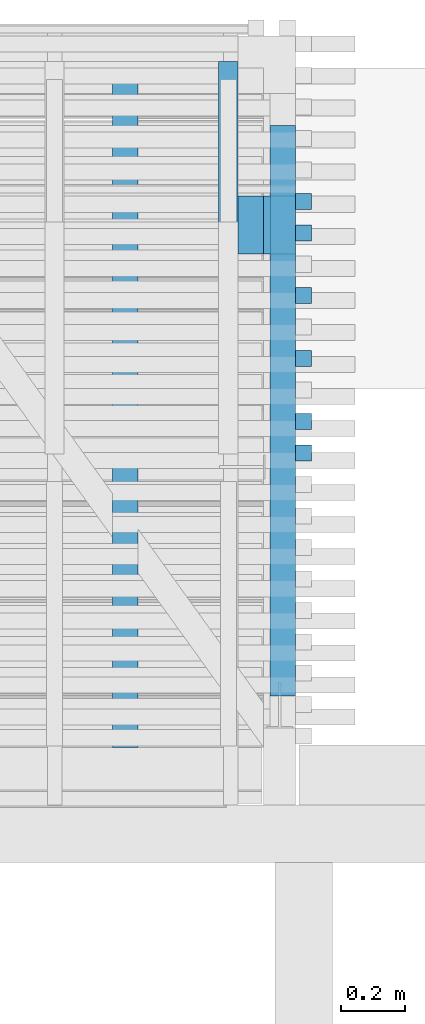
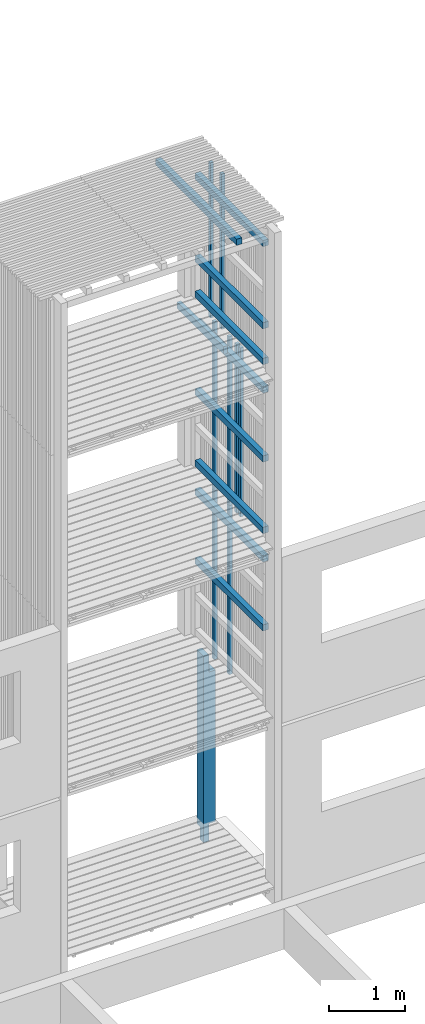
# One storey, part 29 of 182: 19 beams.
"""IFC2X3 building model written with IfcOpenShell, lengths in metres."""

from ifc_helpers import new_model, si_unit, frame, origin, place, context, project, spatial, faceted_brep, element, save


model = new_model("IFC2X3")

# Units and contexts
model_context = context("Model", 3, precision=1e-06, world=origin())
ifc_project = project(units=[si_unit("LENGTHUNIT", "METRE"), si_unit("PLANEANGLEUNIT", "RADIAN")], contexts=[model_context])

# Site, building, storey
site = spatial("IfcSite", under=ifc_project, CompositionType="ELEMENT")
building = spatial("IfcBuilding", under=site, CompositionType="ELEMENT")
storey = spatial("IfcBuildingStorey", under=building, Name="vs", CompositionType="ELEMENT", Elevation=-0.85)

# Beams
placement = place(None, origin())
beam_1_placement = place(placement, frame((6.604197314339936, 10.810077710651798, 5.074999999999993), z_axis=(0.0, 0.0, 1.0), x_axis=(0.0, 1.0, 0.0)))
element("IfcBeam", 1, at=beam_1_placement, inside=storey, Name="Support bardage", context=model_context, shape_type="Brep", body=[
    faceted_brep([(1.779999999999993, -0.039999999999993, 0.050000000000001), (1.779999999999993, -0.039999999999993, -0.050000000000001), (1.779999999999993, 0.04000000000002, -0.050000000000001), (1.779999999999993, 0.04000000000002, 0.050000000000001), (-4e-15, -0.039999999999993, -0.050000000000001), (1.779999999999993, -0.039999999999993, -0.050000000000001), (1.779999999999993, -0.039999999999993, 0.050000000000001), (-4e-15, -0.039999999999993, 0.050000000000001), (-4e-15, 0.04000000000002, -0.050000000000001), (1.779999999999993, 0.04000000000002, -0.050000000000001), (1.779999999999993, -0.039999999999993, -0.050000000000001), (-4e-15, -0.039999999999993, -0.050000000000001), (-4e-15, 0.04000000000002, 0.050000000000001), (1.779999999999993, 0.04000000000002, 0.050000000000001), (1.779999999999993, 0.04000000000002, -0.050000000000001), (-4e-15, 0.04000000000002, -0.050000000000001), (-4e-15, -0.039999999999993, 0.050000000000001), (1.779999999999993, -0.039999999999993, 0.050000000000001), (1.779999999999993, 0.04000000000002, 0.050000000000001), (-4e-15, 0.04000000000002, 0.050000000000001), (-4e-15, -0.039999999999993, -0.050000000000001), (-4e-15, -0.039999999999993, 0.050000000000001), (-4e-15, 0.04000000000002, 0.050000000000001), (-4e-15, 0.04000000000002, -0.050000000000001)], [[[0, 1, 2, 3]], [[4, 5, 6, 7]], [[8, 9, 10, 11]], [[12, 13, 14, 15]], [[16, 17, 18, 19]], [[20, 21, 22, 23]]]),
])
beam_2_placement = place(placement, frame((6.66919731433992, 12.255986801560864, 2.575000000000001), z_axis=(-1.0, 0.0, 0.0), x_axis=(0.0, 0.0, 1.0)))
element("IfcBeam", 2, at=beam_2_placement, inside=storey, Name="Bardage", context=model_context, shape_type="Brep", body=[
    faceted_brep([(0.0, -0.025000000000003, 0.024999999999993), (0.0, 0.025000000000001, 0.024999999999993), (0.0, 0.025000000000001, -0.025000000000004), (0.0, -0.025000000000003, -0.025000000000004), (2.699961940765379, 0.025000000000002, -0.025000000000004), (2.699961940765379, 0.025000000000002, 0.024999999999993), (2.699961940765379, -0.024999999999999, 0.024999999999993), (2.699961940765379, -0.024999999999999, -0.025000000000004), (0.0, -0.025000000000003, -0.025000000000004), (0.0, 0.025000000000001, -0.025000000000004), (2.699961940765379, 0.025000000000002, -0.025000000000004), (2.699961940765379, -0.024999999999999, -0.025000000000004), (2.699961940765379, 0.025000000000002, -0.025000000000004), (0.0, 0.025000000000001, -0.025000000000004), (0.0, 0.025000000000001, 0.024999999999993), (2.699961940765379, 0.025000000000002, 0.024999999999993), (2.699961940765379, 0.025000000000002, 0.024999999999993), (0.0, 0.025000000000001, 0.024999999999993), (0.0, -0.025000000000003, 0.024999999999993), (2.699961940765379, -0.024999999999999, 0.024999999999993), (2.699961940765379, -0.024999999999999, 0.024999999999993), (0.0, -0.025000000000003, 0.024999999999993), (0.0, -0.025000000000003, -0.025000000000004), (2.699961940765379, -0.024999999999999, -0.025000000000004)], [[[0, 1, 2, 3]], [[4, 5, 6, 7]], [[8, 9, 10, 11]], [[12, 13, 14, 15]], [[16, 17, 18, 19]], [[20, 21, 22, 23]]]),
])
beam_3_placement = place(placement, frame((6.66919731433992, 11.568714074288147, 5.274999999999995), z_axis=(-1.0, 0.0, 0.0), x_axis=(0.0, 0.0, 1.0)))
element("IfcBeam", 3, at=beam_3_placement, inside=storey, Name="Bardage", context=model_context, shape_type="Brep", body=[
    faceted_brep([(1e-15, -0.024999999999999, 0.024999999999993), (1e-15, 0.024999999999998, 0.024999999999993), (1e-15, 0.024999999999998, -0.025000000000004), (1e-15, -0.024999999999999, -0.025000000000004), (2.699999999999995, -0.024999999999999, -0.025000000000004), (2.699999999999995, 0.024999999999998, -0.025000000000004), (2.699999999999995, 0.024999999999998, 0.024999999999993), (2.699999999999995, -0.024999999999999, 0.024999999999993), (1e-15, -0.024999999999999, 0.024999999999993), (1e-15, -0.024999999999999, -0.025000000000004), (2.699999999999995, -0.024999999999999, -0.025000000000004), (2.699999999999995, -0.024999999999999, 0.024999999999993), (2.699999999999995, -0.024999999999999, -0.025000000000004), (1e-15, -0.024999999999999, -0.025000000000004), (1e-15, 0.024999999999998, -0.025000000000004), (2.699999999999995, 0.024999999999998, -0.025000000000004), (2.699999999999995, 0.024999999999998, -0.025000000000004), (1e-15, 0.024999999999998, -0.025000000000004), (1e-15, 0.024999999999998, 0.024999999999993), (2.699999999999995, 0.024999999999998, 0.024999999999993), (2.699999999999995, 0.024999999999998, 0.024999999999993), (1e-15, 0.024999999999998, 0.024999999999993), (1e-15, -0.024999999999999, 0.024999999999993), (2.699999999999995, -0.024999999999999, 0.024999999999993)], [[[0, 1, 2, 3]], [[4, 5, 6, 7]], [[8, 9, 10, 11]], [[12, 13, 14, 15]], [[16, 17, 18, 19]], [[20, 21, 22, 23]]]),
])
beam_4_placement = place(placement, frame((6.66919731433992, 12.255986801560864, 5.274999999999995), z_axis=(-1.0, 0.0, 0.0), x_axis=(0.0, 0.0, 1.0)))
element("IfcBeam", 4, at=beam_4_placement, inside=storey, Name="Bardage", context=model_context, shape_type="Brep", body=[
    faceted_brep([(1e-15, -0.025000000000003, 0.024999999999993), (1e-15, 0.025000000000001, 0.024999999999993), (1e-15, 0.025000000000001, -0.025000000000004), (1e-15, -0.025000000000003, -0.025000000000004), (2.699999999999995, -0.025000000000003, -0.025000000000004), (2.699999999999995, 0.025000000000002, -0.025000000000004), (2.699999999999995, 0.025000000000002, 0.024999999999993), (2.699999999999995, -0.025000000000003, 0.024999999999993), (1e-15, -0.025000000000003, 0.024999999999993), (1e-15, -0.025000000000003, -0.025000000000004), (2.699999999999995, -0.025000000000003, -0.025000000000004), (2.699999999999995, -0.025000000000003, 0.024999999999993), (2.699999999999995, -0.025000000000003, -0.025000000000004), (1e-15, -0.025000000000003, -0.025000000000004), (1e-15, 0.025000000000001, -0.025000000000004), (2.699999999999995, 0.025000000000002, -0.025000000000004), (2.699999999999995, 0.025000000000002, -0.025000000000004), (1e-15, 0.025000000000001, -0.025000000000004), (1e-15, 0.025000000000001, 0.024999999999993), (2.699999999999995, 0.025000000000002, 0.024999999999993), (2.699999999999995, 0.025000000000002, 0.024999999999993), (1e-15, 0.025000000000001, 0.024999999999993), (1e-15, -0.025000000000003, 0.024999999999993), (2.699999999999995, -0.025000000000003, 0.024999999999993)], [[[0, 1, 2, 3]], [[4, 5, 6, 7]], [[8, 9, 10, 11]], [[12, 13, 14, 15]], [[16, 17, 18, 19]], [[20, 21, 22, 23]]]),
])
beam_5_placement = place(placement, frame((6.112530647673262, 10.650077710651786, 10.404999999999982), z_axis=(0.0, 0.0, 1.0), x_axis=(0.0, 1.0, 0.0)))
element("IfcBeam", 5, at=beam_5_placement, inside=storey, Name="Support bardage", context=model_context, shape_type="Brep", body=[
    faceted_brep([(2.120000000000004, -0.040000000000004, 0.050000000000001), (2.120000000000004, 0.039999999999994, 0.050000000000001), (3e-15, 0.039999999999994, 0.050000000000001), (3e-15, -0.040000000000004, 0.050000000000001), (3e-15, 0.039999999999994, 0.050000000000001), (2.120000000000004, 0.039999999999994, 0.050000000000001), (2.120000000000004, 0.039999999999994, -0.050000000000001), (3e-15, 0.039999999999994, -0.050000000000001), (2.120000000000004, 0.039999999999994, 0.050000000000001), (2.120000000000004, -0.040000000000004, 0.050000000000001), (2.120000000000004, -0.040000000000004, -0.050000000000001), (2.120000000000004, 0.039999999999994, -0.050000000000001), (2.120000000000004, -0.040000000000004, -0.050000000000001), (2.120000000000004, -0.040000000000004, 0.050000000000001), (3e-15, -0.040000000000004, 0.050000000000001), (3e-15, -0.040000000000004, -0.050000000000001), (3e-15, 0.039999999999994, -0.050000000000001), (2.120000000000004, 0.039999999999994, -0.050000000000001), (2.120000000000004, -0.040000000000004, -0.050000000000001), (3e-15, -0.040000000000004, -0.050000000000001), (3e-15, 0.039999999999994, 0.050000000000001), (3e-15, 0.039999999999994, -0.050000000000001), (3e-15, -0.040000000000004, -0.050000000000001), (3e-15, -0.040000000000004, 0.050000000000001)], [[[0, 1, 2, 3]], [[4, 5, 6, 7]], [[8, 9, 10, 11]], [[12, 13, 14, 15]], [[16, 17, 18, 19]], [[20, 21, 22, 23]]]),
])
beam_6_placement = place(placement, frame((6.66919731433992, 11.666895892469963, 5.274999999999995), z_axis=(-1.0, 0.0, 0.0), x_axis=(0.0, 0.0, 1.0)))
element("IfcBeam", 6, at=beam_6_placement, inside=storey, Name="Bardage", context=model_context, shape_type="Brep", body=[
    faceted_brep([(1e-15, -0.025000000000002, 0.024999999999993), (1e-15, 0.024999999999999, 0.024999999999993), (1e-15, 0.024999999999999, -0.025000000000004), (1e-15, -0.025000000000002, -0.025000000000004), (2.699999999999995, -0.025000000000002, -0.025000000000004), (2.699999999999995, 0.024999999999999, -0.025000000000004), (2.699999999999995, 0.024999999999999, 0.024999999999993), (2.699999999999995, -0.025000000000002, 0.024999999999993), (1e-15, -0.025000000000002, 0.024999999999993), (1e-15, -0.025000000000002, -0.025000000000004), (2.699999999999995, -0.025000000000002, -0.025000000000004), (2.699999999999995, -0.025000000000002, 0.024999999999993), (2.699999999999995, -0.025000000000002, -0.025000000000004), (1e-15, -0.025000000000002, -0.025000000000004), (1e-15, 0.024999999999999, -0.025000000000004), (2.699999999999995, 0.024999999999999, -0.025000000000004), (2.699999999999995, 0.024999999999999, -0.025000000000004), (1e-15, 0.024999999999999, -0.025000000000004), (1e-15, 0.024999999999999, 0.024999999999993), (2.699999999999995, 0.024999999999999, 0.024999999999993), (2.699999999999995, 0.024999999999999, 0.024999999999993), (1e-15, 0.024999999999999, 0.024999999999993), (1e-15, -0.025000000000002, 0.024999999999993), (2.699999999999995, -0.025000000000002, 0.024999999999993)], [[[0, 1, 2, 3]], [[4, 5, 6, 7]], [[8, 9, 10, 11]], [[12, 13, 14, 15]], [[16, 17, 18, 19]], [[20, 21, 22, 23]]]),
])
beam_7_placement = place(placement, frame((6.66919731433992, 11.863259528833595, 5.274999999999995), z_axis=(-1.0, 0.0, 0.0), x_axis=(0.0, 0.0, 1.0)))
element("IfcBeam", 7, at=beam_7_placement, inside=storey, Name="Bardage", context=model_context, shape_type="Brep", body=[
    faceted_brep([(1e-15, -0.024999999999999, 0.024999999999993), (1e-15, 0.024999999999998, 0.024999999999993), (1e-15, 0.024999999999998, -0.025000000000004), (1e-15, -0.024999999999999, -0.025000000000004), (2.699999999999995, -0.024999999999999, -0.025000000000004), (2.699999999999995, 0.024999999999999, -0.025000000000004), (2.699999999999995, 0.024999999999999, 0.024999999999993), (2.699999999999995, -0.024999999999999, 0.024999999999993), (1e-15, -0.024999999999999, 0.024999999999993), (1e-15, -0.024999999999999, -0.025000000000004), (2.699999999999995, -0.024999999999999, -0.025000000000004), (2.699999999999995, -0.024999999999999, 0.024999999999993), (2.699999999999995, -0.024999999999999, -0.025000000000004), (1e-15, -0.024999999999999, -0.025000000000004), (1e-15, 0.024999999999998, -0.025000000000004), (2.699999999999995, 0.024999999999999, -0.025000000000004), (2.699999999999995, 0.024999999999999, -0.025000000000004), (1e-15, 0.024999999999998, -0.025000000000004), (1e-15, 0.024999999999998, 0.024999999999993), (2.699999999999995, 0.024999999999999, 0.024999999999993), (2.699999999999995, 0.024999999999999, 0.024999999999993), (1e-15, 0.024999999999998, 0.024999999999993), (1e-15, -0.024999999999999, 0.024999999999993), (2.699999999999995, -0.024999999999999, 0.024999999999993)], [[[0, 1, 2, 3]], [[4, 5, 6, 7]], [[8, 9, 10, 11]], [[12, 13, 14, 15]], [[16, 17, 18, 19]], [[20, 21, 22, 23]]]),
])
beam_8_placement = place(placement, frame((6.604197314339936, 10.810077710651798, 6.672499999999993), z_axis=(0.0, 0.0, 1.0), x_axis=(0.0, 1.0, 0.0)))
element("IfcBeam", 8, at=beam_8_placement, inside=storey, Name="Support bardage", context=model_context, shape_type="Brep", body=[
    faceted_brep([(1.779999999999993, -0.039999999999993, 0.050000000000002), (1.779999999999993, -0.039999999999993, -0.05), (1.779999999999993, 0.04000000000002, -0.05), (1.779999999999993, 0.04000000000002, 0.050000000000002), (-4e-15, -0.039999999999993, -0.05), (1.779999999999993, -0.039999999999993, -0.05), (1.779999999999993, -0.039999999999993, 0.050000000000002), (-4e-15, -0.039999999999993, 0.050000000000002), (-4e-15, 0.04000000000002, -0.05), (1.779999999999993, 0.04000000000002, -0.05), (1.779999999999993, -0.039999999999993, -0.05), (-4e-15, -0.039999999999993, -0.05), (-4e-15, 0.04000000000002, 0.050000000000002), (1.779999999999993, 0.04000000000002, 0.050000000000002), (1.779999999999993, 0.04000000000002, -0.05), (-4e-15, 0.04000000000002, -0.05), (-4e-15, -0.039999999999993, 0.050000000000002), (1.779999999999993, -0.039999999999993, 0.050000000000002), (1.779999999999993, 0.04000000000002, 0.050000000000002), (-4e-15, 0.04000000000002, 0.050000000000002), (-4e-15, -0.039999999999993, -0.05), (-4e-15, -0.039999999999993, 0.050000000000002), (-4e-15, 0.04000000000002, 0.050000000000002), (-4e-15, 0.04000000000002, -0.05)], [[[0, 1, 2, 3]], [[4, 5, 6, 7]], [[8, 9, 10, 11]], [[12, 13, 14, 15]], [[16, 17, 18, 19]], [[20, 21, 22, 23]]]),
])
beam_9_placement = place(placement, frame((6.604197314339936, 10.810077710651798, 7.774999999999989), z_axis=(0.0, 0.0, 1.0), x_axis=(0.0, 1.0, 0.0)))
element("IfcBeam", 9, at=beam_9_placement, inside=storey, Name="Support bardage", context=model_context, shape_type="Brep", body=[
    faceted_brep([(1.779999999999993, -0.039999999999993, 0.050000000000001), (1.779999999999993, -0.039999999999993, -0.050000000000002), (1.779999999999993, 0.04000000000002, -0.050000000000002), (1.779999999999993, 0.04000000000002, 0.050000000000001), (-4e-15, -0.039999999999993, -0.050000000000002), (1.779999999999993, -0.039999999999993, -0.050000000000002), (1.779999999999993, -0.039999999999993, 0.050000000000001), (-4e-15, -0.039999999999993, 0.050000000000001), (-4e-15, 0.04000000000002, -0.050000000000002), (1.779999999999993, 0.04000000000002, -0.050000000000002), (1.779999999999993, -0.039999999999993, -0.050000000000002), (-4e-15, -0.039999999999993, -0.050000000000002), (-4e-15, 0.04000000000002, 0.050000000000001), (1.779999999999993, 0.04000000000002, 0.050000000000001), (1.779999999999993, 0.04000000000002, -0.050000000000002), (-4e-15, 0.04000000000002, -0.050000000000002), (-4e-15, -0.039999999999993, 0.050000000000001), (1.779999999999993, -0.039999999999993, 0.050000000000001), (1.779999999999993, 0.04000000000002, 0.050000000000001), (-4e-15, 0.04000000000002, 0.050000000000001), (-4e-15, -0.039999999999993, -0.050000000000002), (-4e-15, -0.039999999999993, 0.050000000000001), (-4e-15, 0.04000000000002, 0.050000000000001), (-4e-15, 0.04000000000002, -0.050000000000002)], [[[0, 1, 2, 3]], [[4, 5, 6, 7]], [[8, 9, 10, 11]], [[12, 13, 14, 15]], [[16, 17, 18, 19]], [[20, 21, 22, 23]]]),
])
beam_10_placement = place(placement, frame((6.66919731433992, 12.35416861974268, 7.974999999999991), z_axis=(-1.0, 0.0, 0.0), x_axis=(0.0, 0.0, 1.0)))
element("IfcBeam", 10, at=beam_10_placement, inside=storey, Name="Bardage", context=model_context, shape_type="Brep", body=[
    faceted_brep([(2.479999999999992, -0.024999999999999, 0.024999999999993), (2.479999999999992, -0.024999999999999, -0.025000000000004), (2.479999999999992, 0.024999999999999, -0.025000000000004), (2.479999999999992, 0.024999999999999, 0.024999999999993), (0.0, 0.024999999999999, 0.024999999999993), (0.0, -0.024999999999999, 0.024999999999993), (2.479999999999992, -0.024999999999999, 0.024999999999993), (2.479999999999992, 0.024999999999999, 0.024999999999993), (0.0, -0.024999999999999, 0.024999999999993), (0.0, 0.024999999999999, 0.024999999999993), (0.0, 0.024999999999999, -0.025000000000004), (0.0, -0.024999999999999, -0.025000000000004), (0.0, 0.024999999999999, -0.025000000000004), (0.0, 0.024999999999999, 0.024999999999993), (2.479999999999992, 0.024999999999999, 0.024999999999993), (2.479999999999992, 0.024999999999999, -0.025000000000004), (0.0, -0.024999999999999, -0.025000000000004), (0.0, 0.024999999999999, -0.025000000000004), (2.479999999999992, 0.024999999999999, -0.025000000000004), (2.479999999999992, -0.024999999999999, -0.025000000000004), (2.479999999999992, -0.024999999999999, 0.024999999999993), (0.0, -0.024999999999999, 0.024999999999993), (0.0, -0.024999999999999, -0.025000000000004), (2.479999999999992, -0.024999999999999, -0.025000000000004)], [[[0, 1, 2, 3]], [[4, 5, 6, 7]], [[8, 9, 10, 11]], [[12, 13, 14, 15]], [[16, 17, 18, 19]], [[20, 21, 22, 23]]]),
])
beam_11_placement = place(placement, frame((6.604197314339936, 10.810077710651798, 10.114999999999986), z_axis=(0.0, 0.0, 1.0), x_axis=(0.0, 1.0, 0.0)))
element("IfcBeam", 11, at=beam_11_placement, inside=storey, Name="Support bardage", context=model_context, shape_type="Brep", body=[
    faceted_brep([(1.779999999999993, -0.039999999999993, 0.050000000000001), (1.779999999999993, -0.039999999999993, -0.050000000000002), (1.779999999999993, 0.04000000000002, -0.050000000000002), (1.779999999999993, 0.04000000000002, 0.050000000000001), (-4e-15, -0.039999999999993, -0.050000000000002), (1.779999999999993, -0.039999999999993, -0.050000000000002), (1.779999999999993, -0.039999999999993, 0.050000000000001), (-4e-15, -0.039999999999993, 0.050000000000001), (-4e-15, 0.04000000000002, -0.050000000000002), (1.779999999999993, 0.04000000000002, -0.050000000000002), (1.779999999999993, -0.039999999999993, -0.050000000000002), (-4e-15, -0.039999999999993, -0.050000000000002), (-4e-15, 0.04000000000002, 0.050000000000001), (1.779999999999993, 0.04000000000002, 0.050000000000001), (1.779999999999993, 0.04000000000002, -0.050000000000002), (-4e-15, 0.04000000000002, -0.050000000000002), (-4e-15, -0.039999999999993, 0.050000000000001), (1.779999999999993, -0.039999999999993, 0.050000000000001), (1.779999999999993, 0.04000000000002, 0.050000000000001), (-4e-15, 0.04000000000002, 0.050000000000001), (-4e-15, -0.039999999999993, -0.050000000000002), (-4e-15, -0.039999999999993, 0.050000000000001), (-4e-15, 0.04000000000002, 0.050000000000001), (-4e-15, 0.04000000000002, -0.050000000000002)], [[[0, 1, 2, 3]], [[4, 5, 6, 7]], [[8, 9, 10, 11]], [[12, 13, 14, 15]], [[16, 17, 18, 19]], [[20, 21, 22, 23]]]),
])
beam_12_placement = place(placement, frame((6.66919731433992, 11.863259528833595, 2.575000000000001), z_axis=(-1.0, 0.0, 0.0), x_axis=(0.0, 0.0, 1.0)))
element("IfcBeam", 12, at=beam_12_placement, inside=storey, Name="Bardage", context=model_context, shape_type="Brep", body=[
    faceted_brep([(0.0, -0.024999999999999, 0.024999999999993), (0.0, 0.024999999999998, 0.024999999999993), (0.0, 0.024999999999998, -0.025000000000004), (0.0, -0.024999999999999, -0.025000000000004), (2.699961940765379, 0.024999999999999, -0.025000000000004), (2.699961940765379, 0.024999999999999, 0.024999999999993), (2.699961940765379, -0.024999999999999, 0.024999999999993), (2.699961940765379, -0.024999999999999, -0.025000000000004), (0.0, -0.024999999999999, -0.025000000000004), (0.0, 0.024999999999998, -0.025000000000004), (2.699961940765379, 0.024999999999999, -0.025000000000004), (2.699961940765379, -0.024999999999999, -0.025000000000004), (2.699961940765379, 0.024999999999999, -0.025000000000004), (0.0, 0.024999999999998, -0.025000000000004), (0.0, 0.024999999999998, 0.024999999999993), (2.699961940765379, 0.024999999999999, 0.024999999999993), (2.699961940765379, 0.024999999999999, 0.024999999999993), (0.0, 0.024999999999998, 0.024999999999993), (0.0, -0.024999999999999, 0.024999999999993), (2.699961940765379, -0.024999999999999, 0.024999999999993), (2.699961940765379, -0.024999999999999, 0.024999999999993), (0.0, -0.024999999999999, 0.024999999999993), (0.0, -0.024999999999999, -0.025000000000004), (2.699961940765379, -0.024999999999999, -0.025000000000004)], [[[0, 1, 2, 3]], [[4, 5, 6, 7]], [[8, 9, 10, 11]], [[12, 13, 14, 15]], [[16, 17, 18, 19]], [[20, 21, 22, 23]]]),
])
beam_13_placement = place(placement, frame((6.604197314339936, 10.810077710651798, 8.229999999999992), z_axis=(0.0, 0.0, 1.0), x_axis=(0.0, 1.0, 0.0)))
element("IfcBeam", 13, at=beam_13_placement, inside=storey, Name="Support bardage", context=model_context, shape_type="Brep", body=[
    faceted_brep([(1.779999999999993, -0.039999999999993, 0.050000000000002), (1.779999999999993, -0.039999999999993, -0.05), (1.779999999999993, 0.04000000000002, -0.05), (1.779999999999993, 0.04000000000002, 0.050000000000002), (-4e-15, -0.039999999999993, -0.05), (1.779999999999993, -0.039999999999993, -0.05), (1.779999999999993, -0.039999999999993, 0.050000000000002), (-4e-15, -0.039999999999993, 0.050000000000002), (-4e-15, 0.04000000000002, -0.05), (1.779999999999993, 0.04000000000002, -0.05), (1.779999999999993, -0.039999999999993, -0.05), (-4e-15, -0.039999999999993, -0.05), (-4e-15, 0.04000000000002, 0.050000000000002), (1.779999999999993, 0.04000000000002, 0.050000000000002), (1.779999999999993, 0.04000000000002, -0.05), (-4e-15, 0.04000000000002, -0.05), (-4e-15, -0.039999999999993, 0.050000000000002), (1.779999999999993, -0.039999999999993, 0.050000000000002), (1.779999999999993, 0.04000000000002, 0.050000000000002), (-4e-15, 0.04000000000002, 0.050000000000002), (-4e-15, -0.039999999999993, -0.05), (-4e-15, -0.039999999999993, 0.050000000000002), (-4e-15, 0.04000000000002, 0.050000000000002), (-4e-15, 0.04000000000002, -0.05)], [[[0, 1, 2, 3]], [[4, 5, 6, 7]], [[8, 9, 10, 11]], [[12, 13, 14, 15]], [[16, 17, 18, 19]], [[20, 21, 22, 23]]]),
])
beam_14_placement = place(placement, frame((6.434197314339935, 11.565077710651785, 8.00424999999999), z_axis=(0.0, 0.0, 1.0), x_axis=(-1.2e-14, 1.0, 0.0)))
element("IfcBeam", 14, at=beam_14_placement, inside=storey, Name="Solive", context=model_context, shape_type="Brep", body=[
    faceted_brep([(-1e-15, -0.029999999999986, 0.061850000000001), (-1e-15, -0.029999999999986, -0.061849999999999), (1.225000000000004, -0.03, -0.061849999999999), (1.225000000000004, -0.03, 0.037349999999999), (-1e-15, -0.029999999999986, -0.061849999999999), (-1e-15, -0.029999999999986, 0.061850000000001), (0.0, 0.030000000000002, 0.061849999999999), (0.0, 0.030000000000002, -0.061849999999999), (1.225000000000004, -0.03, -0.061849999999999), (-1e-15, -0.029999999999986, -0.061849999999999), (0.0, 0.030000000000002, -0.061849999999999), (1.225000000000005, 0.029999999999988, -0.061849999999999), (1.225000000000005, 0.029999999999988, 0.037349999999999), (1.225000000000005, 0.029999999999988, -0.061849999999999), (0.0, 0.030000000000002, -0.061849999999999), (0.0, 0.030000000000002, 0.061849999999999), (1.225000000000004, -0.03, 0.037349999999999), (1.225000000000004, -0.03, -0.061849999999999), (1.225000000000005, 0.029999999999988, -0.061849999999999), (1.225000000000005, 0.029999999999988, 0.037349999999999), (1.225000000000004, -0.03, 0.037349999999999), (1.225000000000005, 0.029999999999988, 0.037349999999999), (0.0, 0.030000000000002, 0.061849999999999), (-1e-15, -0.029999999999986, 0.061850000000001)], [[[0, 1, 2, 3]], [[4, 5, 6, 7]], [[8, 9, 10, 11]], [[12, 13, 14, 15]], [[16, 17, 18, 19]], [[20, 21, 22, 23]]]),
])
beam_15_placement = place(placement, frame((6.604197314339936, 10.810077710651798, 5.529999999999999), z_axis=(0.0, 0.0, 1.0), x_axis=(0.0, 1.0, 0.0)))
element("IfcBeam", 15, at=beam_15_placement, inside=storey, Name="Support bardage", context=model_context, shape_type="Brep", body=[
    faceted_brep([(1.779999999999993, -0.039999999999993, 0.05), (1.779999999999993, -0.039999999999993, -0.050000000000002), (1.779999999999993, 0.04000000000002, -0.050000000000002), (1.779999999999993, 0.04000000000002, 0.05), (-4e-15, -0.039999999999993, -0.050000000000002), (1.779999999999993, -0.039999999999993, -0.050000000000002), (1.779999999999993, -0.039999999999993, 0.05), (-4e-15, -0.039999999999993, 0.05), (-4e-15, 0.04000000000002, -0.050000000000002), (1.779999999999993, 0.04000000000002, -0.050000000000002), (1.779999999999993, -0.039999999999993, -0.050000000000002), (-4e-15, -0.039999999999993, -0.050000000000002), (-4e-15, 0.04000000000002, 0.05), (1.779999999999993, 0.04000000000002, 0.05), (1.779999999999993, 0.04000000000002, -0.050000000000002), (-4e-15, 0.04000000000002, -0.050000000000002), (-4e-15, -0.039999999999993, 0.05), (1.779999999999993, -0.039999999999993, 0.05), (1.779999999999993, 0.04000000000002, 0.05), (-4e-15, 0.04000000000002, 0.05), (-4e-15, -0.039999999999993, -0.050000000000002), (-4e-15, -0.039999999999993, 0.05), (-4e-15, 0.04000000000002, 0.05), (-4e-15, 0.04000000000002, -0.050000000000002)], [[[0, 1, 2, 3]], [[4, 5, 6, 7]], [[8, 9, 10, 11]], [[12, 13, 14, 15]], [[16, 17, 18, 19]], [[20, 21, 22, 23]]]),
])
beam_16_placement = place(placement, frame((6.604197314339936, 10.810077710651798, 3.972499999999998), z_axis=(0.0, 0.0, 1.0), x_axis=(0.0, 1.0, 0.0)))
element("IfcBeam", 16, at=beam_16_placement, inside=storey, Name="Support bardage", context=model_context, shape_type="Brep", body=[
    faceted_brep([(1.779999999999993, -0.039999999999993, 0.050000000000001), (1.779999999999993, -0.039999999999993, -0.050000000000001), (1.779999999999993, 0.04000000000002, -0.050000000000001), (1.779999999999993, 0.04000000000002, 0.050000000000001), (-4e-15, -0.039999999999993, -0.050000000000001), (1.779999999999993, -0.039999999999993, -0.050000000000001), (1.779999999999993, -0.039999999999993, 0.050000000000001), (-4e-15, -0.039999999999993, 0.050000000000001), (-4e-15, 0.04000000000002, -0.050000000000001), (1.779999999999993, 0.04000000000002, -0.050000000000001), (1.779999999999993, -0.039999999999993, -0.050000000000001), (-4e-15, -0.039999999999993, -0.050000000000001), (-4e-15, 0.04000000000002, 0.050000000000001), (1.779999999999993, 0.04000000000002, 0.050000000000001), (1.779999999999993, 0.04000000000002, -0.050000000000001), (-4e-15, 0.04000000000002, -0.050000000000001), (-4e-15, -0.039999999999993, 0.050000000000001), (1.779999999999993, -0.039999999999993, 0.050000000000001), (1.779999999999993, 0.04000000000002, 0.050000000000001), (-4e-15, 0.04000000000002, 0.050000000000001), (-4e-15, -0.039999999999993, -0.050000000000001), (-4e-15, -0.039999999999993, 0.050000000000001), (-4e-15, 0.04000000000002, 0.050000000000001), (-4e-15, 0.04000000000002, -0.050000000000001)], [[[0, 1, 2, 3]], [[4, 5, 6, 7]], [[8, 9, 10, 11]], [[12, 13, 14, 15]], [[16, 17, 18, 19]], [[20, 21, 22, 23]]]),
])
beam_17_placement = place(placement, frame((6.554197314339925, 12.280077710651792, -0.26), z_axis=(0.0, -1.0, 0.0), x_axis=(0.0, 0.0, 1.0)))
element("IfcBeam", 17, at=beam_17_placement, inside=storey, Name="Poteau", context=model_context, shape_type="Brep", body=[
    faceted_brep([(2.699999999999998, -0.09, -0.09), (2.699999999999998, -0.09, 0.09), (0.28, -0.09, 0.09), (0.280000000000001, -0.09, -0.09), (0.0, 0.090000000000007, 0.09), (0.0, 0.090000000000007, -0.009999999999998), (0.0, 0.010000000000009, -0.009999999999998), (0.0, 0.010000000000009, 0.09), (0.280000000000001, -0.09, -0.09), (0.28, -0.09, 0.09), (0.28, 0.010000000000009, 0.09), (0.28, 0.010000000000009, -0.09), (0.200000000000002, 0.090000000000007, -0.09), (0.200000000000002, 0.010000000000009, -0.09), (0.200000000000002, 0.010000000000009, -0.009999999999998), (0.200000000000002, 0.090000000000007, -0.009999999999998), (0.200000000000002, 0.090000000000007, -0.009999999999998), (0.200000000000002, 0.010000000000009, -0.009999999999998), (0.0, 0.010000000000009, -0.009999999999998), (0.0, 0.090000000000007, -0.009999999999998), (0.0, 0.010000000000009, -0.009999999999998), (0.200000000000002, 0.010000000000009, -0.009999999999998), (0.200000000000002, 0.010000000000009, -0.09), (0.28, 0.010000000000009, -0.09), (0.28, 0.010000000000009, 0.09), (0.0, 0.010000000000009, 0.09), (2.979999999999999, 0.010000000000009, -0.09), (2.699999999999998, 0.010000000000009, -0.09), (2.699999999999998, -0.09, -0.09), (0.280000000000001, -0.09, -0.09), (0.28, 0.010000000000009, -0.09), (0.200000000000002, 0.010000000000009, -0.09), (0.200000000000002, 0.090000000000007, -0.09), (2.979999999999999, 0.090000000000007, -0.09), (2.979999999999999, 0.090000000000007, -0.09), (0.200000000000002, 0.090000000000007, -0.09), (0.200000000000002, 0.090000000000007, -0.009999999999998), (0.0, 0.090000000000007, -0.009999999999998), (0.0, 0.090000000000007, 0.09), (2.979999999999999, 0.090000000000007, 0.09), (2.699999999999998, 0.010000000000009, 0.09), (2.979999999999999, 0.010000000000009, 0.09), (2.979999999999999, 0.090000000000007, 0.09), (0.0, 0.090000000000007, 0.09), (0.0, 0.010000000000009, 0.09), (0.28, 0.010000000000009, 0.09), (0.28, -0.09, 0.09), (2.699999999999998, -0.09, 0.09), (2.979999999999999, 0.090000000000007, -0.09), (2.979999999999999, 0.090000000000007, 0.09), (2.979999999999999, 0.010000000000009, 0.09), (2.979999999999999, 0.010000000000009, -0.09), (2.979999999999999, 0.010000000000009, -0.09), (2.979999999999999, 0.010000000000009, 0.09), (2.699999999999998, 0.010000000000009, 0.09), (2.699999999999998, 0.010000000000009, -0.09), (2.699999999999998, 0.010000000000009, -0.09), (2.699999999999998, 0.010000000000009, 0.09), (2.699999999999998, -0.09, 0.09), (2.699999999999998, -0.09, -0.09)], [[[0, 1, 2, 3]], [[4, 5, 6, 7]], [[8, 9, 10, 11]], [[12, 13, 14, 15]], [[16, 17, 18, 19]], [[20, 21, 22, 23, 24, 25]], [[26, 27, 28, 29, 30, 31, 32, 33]], [[34, 35, 36, 37, 38, 39]], [[40, 41, 42, 43, 44, 45, 46, 47]], [[48, 49, 50, 51]], [[52, 53, 54, 55]], [[56, 57, 58, 59]]]),
])
beam_18_placement = place(placement, frame((6.604197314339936, 10.810077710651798, 8.80124999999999), z_axis=(0.0, 0.0, 1.0), x_axis=(0.0, 1.0, 0.0)))
element("IfcBeam", 18, at=beam_18_placement, inside=storey, Name="Support bardage", context=model_context, shape_type="Brep", body=[
    faceted_brep([(1.779999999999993, -0.039999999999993, 0.050000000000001), (1.779999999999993, -0.039999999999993, -0.050000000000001), (1.779999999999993, 0.04000000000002, -0.050000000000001), (1.779999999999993, 0.04000000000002, 0.050000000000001), (-4e-15, -0.039999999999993, -0.050000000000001), (1.779999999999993, -0.039999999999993, -0.050000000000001), (1.779999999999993, -0.039999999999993, 0.050000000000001), (-4e-15, -0.039999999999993, 0.050000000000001), (-4e-15, 0.04000000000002, -0.050000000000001), (1.779999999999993, 0.04000000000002, -0.050000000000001), (1.779999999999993, -0.039999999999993, -0.050000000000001), (-4e-15, -0.039999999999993, -0.050000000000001), (-4e-15, 0.04000000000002, 0.050000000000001), (1.779999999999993, 0.04000000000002, 0.050000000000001), (1.779999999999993, 0.04000000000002, -0.050000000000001), (-4e-15, 0.04000000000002, -0.050000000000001), (-4e-15, -0.039999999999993, 0.050000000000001), (1.779999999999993, -0.039999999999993, 0.050000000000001), (1.779999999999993, 0.04000000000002, 0.050000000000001), (-4e-15, 0.04000000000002, 0.050000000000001), (-4e-15, -0.039999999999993, -0.050000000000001), (-4e-15, -0.039999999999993, 0.050000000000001), (-4e-15, 0.04000000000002, 0.050000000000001), (-4e-15, 0.04000000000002, -0.050000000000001)], [[[0, 1, 2, 3]], [[4, 5, 6, 7]], [[8, 9, 10, 11]], [[12, 13, 14, 15]], [[16, 17, 18, 19]], [[20, 21, 22, 23]]]),
])
beam_19_placement = place(placement, frame((6.66919731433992, 12.059623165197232, 7.974999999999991), z_axis=(-1.0, 0.0, 0.0), x_axis=(0.0, 0.0, 1.0)))
element("IfcBeam", 19, at=beam_19_placement, inside=storey, Name="Bardage", context=model_context, shape_type="Brep", body=[
    faceted_brep([(2.479999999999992, -0.025000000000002, 0.024999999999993), (2.479999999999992, -0.025000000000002, -0.025000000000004), (2.479999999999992, 0.024999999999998, -0.025000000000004), (2.479999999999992, 0.024999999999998, 0.024999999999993), (0.0, 0.024999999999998, 0.024999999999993), (0.0, -0.025000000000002, 0.024999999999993), (2.479999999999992, -0.025000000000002, 0.024999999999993), (2.479999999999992, 0.024999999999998, 0.024999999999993), (0.0, -0.025000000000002, 0.024999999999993), (0.0, 0.024999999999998, 0.024999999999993), (0.0, 0.024999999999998, -0.025000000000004), (0.0, -0.025000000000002, -0.025000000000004), (0.0, 0.024999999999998, -0.025000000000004), (0.0, 0.024999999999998, 0.024999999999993), (2.479999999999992, 0.024999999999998, 0.024999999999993), (2.479999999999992, 0.024999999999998, -0.025000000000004), (0.0, -0.025000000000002, -0.025000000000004), (0.0, 0.024999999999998, -0.025000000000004), (2.479999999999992, 0.024999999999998, -0.025000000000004), (2.479999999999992, -0.025000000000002, -0.025000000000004), (2.479999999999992, -0.025000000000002, 0.024999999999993), (0.0, -0.025000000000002, 0.024999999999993), (0.0, -0.025000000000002, -0.025000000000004), (2.479999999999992, -0.025000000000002, -0.025000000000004)], [[[0, 1, 2, 3]], [[4, 5, 6, 7]], [[8, 9, 10, 11]], [[12, 13, 14, 15]], [[16, 17, 18, 19]], [[20, 21, 22, 23]]]),
])

save(model, "model.ifc")
